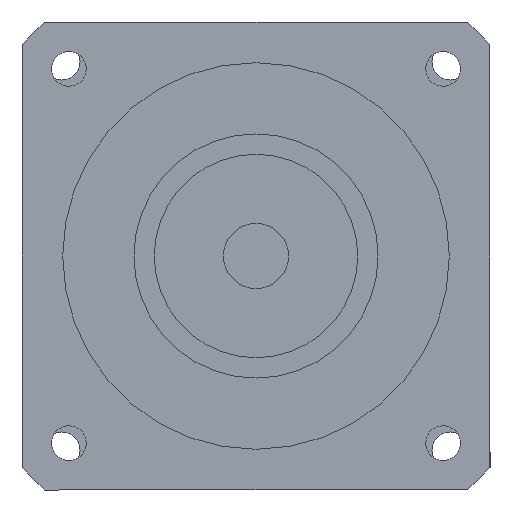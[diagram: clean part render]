
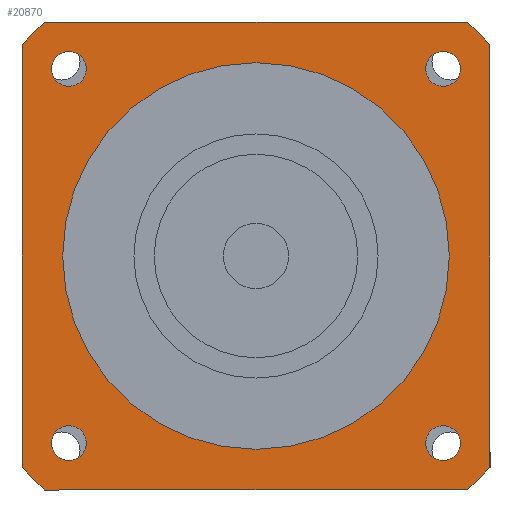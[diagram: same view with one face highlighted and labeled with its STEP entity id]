
A CAD part, left-side view. The second image highlights one B-rep face of the part: STEP entity #20870.
In plain terms, the highlighted planar face has unit normal (-1, 0, 0) as drawn and (0, 0, -1) by its records, which use the part's own axes.
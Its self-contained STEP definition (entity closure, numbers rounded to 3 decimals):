
#16070=CARTESIAN_POINT('',(-57.5,51.962,-101.));
#16080=VERTEX_POINT('',#16070);
#16230=CARTESIAN_POINT('',(-57.5,-51.962,-101.));
#16240=VERTEX_POINT('',#16230);
#16270=CARTESIAN_POINT('',(-57.5,57.5,-101.));
#16280=DIRECTION('',(0.,-1.,0.));
#16290=VECTOR('',#16280,1000.);
#16300=LINE('',#16270,#16290);
#16310=EDGE_CURVE('',#16080,#16240,#16300,.T.);
#16550=CARTESIAN_POINT('',(-51.962,-57.5,-101.));
#16560=VERTEX_POINT('',#16550);
#16590=CARTESIAN_POINT('',(0.,0.,
-101.));
#16600=DIRECTION('',(0.,0.,1.));
#16610=DIRECTION('',(0.,-1.,0.));
#16620=AXIS2_PLACEMENT_3D('',#16590,#16600,#16610);
#16630=CIRCLE('',#16620,77.5);
#16640=EDGE_CURVE('',#16240,#16560,#16630,.T.);
#18460=CARTESIAN_POINT('',(-51.962,57.5,-101.));
#18470=VERTEX_POINT('',#18460);
#18520=CARTESIAN_POINT('',(0.,0.,
-101.));
#18530=DIRECTION('',(0.,0.,1.));
#18540=DIRECTION('',(0.,-1.,0.));
#18550=AXIS2_PLACEMENT_3D('',#18520,#18530,#18540);
#18560=CIRCLE('',#18550,77.5);
#18570=EDGE_CURVE('',#18470,#16080,#18560,.T.);
#18710=CARTESIAN_POINT('',(51.962,57.5,-101.));
#18720=VERTEX_POINT('',#18710);
#18770=CARTESIAN_POINT('',(57.5,57.5,-101.));
#18780=DIRECTION('',(-1.,0.,0.));
#18790=VECTOR('',#18780,1000.);
#18800=LINE('',#18770,#18790);
#18810=EDGE_CURVE('',#18720,#18470,#18800,.T.);
#18920=CARTESIAN_POINT('',(0.,0.,
-101.));
#18930=DIRECTION('',(0.,0.,1.));
#18940=DIRECTION('',(0.,-1.,0.));
#18950=AXIS2_PLACEMENT_3D('',#18920,#18930,#18940);
#18960=CIRCLE('',#18950,77.5);
#18970=CARTESIAN_POINT('',(57.5,51.962,-101.));
#18980=VERTEX_POINT('',#18970);
#18990=EDGE_CURVE('',#18980,#18720,#18960,.T.);
#19200=CARTESIAN_POINT('',(57.5,-51.962,-101.));
#19210=VERTEX_POINT('',#19200);
#19260=CARTESIAN_POINT('',(57.5,-57.5,-101.));
#19270=DIRECTION('',(0.,1.,0.));
#19280=VECTOR('',#19270,1000.);
#19290=LINE('',#19260,#19280);
#19300=EDGE_CURVE('',#19210,#18980,#19290,.T.);
#19440=CARTESIAN_POINT('',(51.962,-57.5,-101.));
#19450=VERTEX_POINT('',#19440);
#19500=CARTESIAN_POINT('',(0.,0.,
-101.));
#19510=DIRECTION('',(0.,0.,1.));
#19520=DIRECTION('',(0.,-1.,0.));
#19530=AXIS2_PLACEMENT_3D('',#19500,#19510,#19520);
#19540=CIRCLE('',#19530,77.5);
#19550=EDGE_CURVE('',#19450,#19210,#19540,.T.);
#19680=CARTESIAN_POINT('',(-57.5,-57.5,-101.));
#19690=DIRECTION('',(1.,0.,0.));
#19700=VECTOR('',#19690,1000.);
#19710=LINE('',#19680,#19700);
#19720=EDGE_CURVE('',#16560,#19450,#19710,.T.);
#19770=CARTESIAN_POINT('',(-57.5,57.5,-101.));
#19780=DIRECTION('',(0.,0.,1.));
#19790=DIRECTION('',(-1.,0.,0.));
#19800=AXIS2_PLACEMENT_3D('',#19770,#19780,#19790);
#19810=PLANE('',#19800);
#19820=CARTESIAN_POINT('',(45.962,-45.962,-101.));
#19830=DIRECTION('',(0.,0.,-1.));
#19840=DIRECTION('',(1.,0.,0.));
#19850=AXIS2_PLACEMENT_3D('',#19820,#19830,#19840);
#19860=CIRCLE('',#19850,4.25);
#19870=CARTESIAN_POINT('',(50.212,-45.962,-101.));
#19880=VERTEX_POINT('',#19870);
#19890=CARTESIAN_POINT('',(45.962,-50.212,-101.));
#19900=VERTEX_POINT('',#19890);
#19910=EDGE_CURVE('',#19880,#19900,#19860,.T.);
#19920=ORIENTED_EDGE('',*,*,#19910,.F.);
#19930=CARTESIAN_POINT('',(45.962,-41.712,-101.));
#19940=VERTEX_POINT('',#19930);
#19950=EDGE_CURVE('',#19900,#19940,#19860,.T.);
#19960=ORIENTED_EDGE('',*,*,#19950,.F.);
#19970=EDGE_CURVE('',#19940,#19880,#19860,.T.);
#19980=ORIENTED_EDGE('',*,*,#19970,.F.);
#19990=EDGE_LOOP('',(#19980,#19960,#19920));
#20000=FACE_BOUND('',#19990,.T.);
#20010=CARTESIAN_POINT('',(45.962,45.962,-101.));
#20020=DIRECTION('',(0.,0.,-1.));
#20030=DIRECTION('',(0.,1.,0.));
#20040=AXIS2_PLACEMENT_3D('',#20010,#20020,#20030);
#20050=CIRCLE('',#20040,4.25);
#20060=CARTESIAN_POINT('',(45.962,50.212,-101.));
#20070=VERTEX_POINT('',#20060);
#20080=CARTESIAN_POINT('',(50.212,45.962,-101.));
#20090=VERTEX_POINT('',#20080);
#20100=EDGE_CURVE('',#20070,#20090,#20050,.T.);
#20110=ORIENTED_EDGE('',*,*,#20100,.F.);
#20120=CARTESIAN_POINT('',(41.712,45.962,-101.));
#20130=VERTEX_POINT('',#20120);
#20140=EDGE_CURVE('',#20090,#20130,#20050,.T.);
#20150=ORIENTED_EDGE('',*,*,#20140,.F.);
#20160=EDGE_CURVE('',#20130,#20070,#20050,.T.);
#20170=ORIENTED_EDGE('',*,*,#20160,.F.);
#20180=EDGE_LOOP('',(#20170,#20150,#20110));
#20190=FACE_BOUND('',#20180,.T.);
#20200=CARTESIAN_POINT('',(-45.962,45.962,-101.));
#20210=DIRECTION('',(0.,0.,-1.));
#20220=DIRECTION('',(-1.,0.,0.));
#20230=AXIS2_PLACEMENT_3D('',#20200,#20210,#20220);
#20240=CIRCLE('',#20230,4.25);
#20250=CARTESIAN_POINT('',(-50.212,45.962,-101.));
#20260=VERTEX_POINT('',#20250);
#20270=CARTESIAN_POINT('',(-45.962,50.212,-101.));
#20280=VERTEX_POINT('',#20270);
#20290=EDGE_CURVE('',#20260,#20280,#20240,.T.);
#20300=ORIENTED_EDGE('',*,*,#20290,.F.);
#20310=CARTESIAN_POINT('',(-45.962,41.712,-101.));
#20320=VERTEX_POINT('',#20310);
#20330=EDGE_CURVE('',#20280,#20320,#20240,.T.);
#20340=ORIENTED_EDGE('',*,*,#20330,.F.);
#20350=EDGE_CURVE('',#20320,#20260,#20240,.T.);
#20360=ORIENTED_EDGE('',*,*,#20350,.F.);
#20370=EDGE_LOOP('',(#20360,#20340,#20300));
#20380=FACE_BOUND('',#20370,.T.);
#20390=CARTESIAN_POINT('',(-45.962,-45.962,-101.));
#20400=DIRECTION('',(0.,0.,-1.));
#20410=DIRECTION('',(0.,-1.,0.));
#20420=AXIS2_PLACEMENT_3D('',#20390,#20400,#20410);
#20430=CIRCLE('',#20420,4.25);
#20440=CARTESIAN_POINT('',(-45.962,-50.212,-101.));
#20450=VERTEX_POINT('',#20440);
#20460=CARTESIAN_POINT('',(-50.212,-45.962,-101.));
#20470=VERTEX_POINT('',#20460);
#20480=EDGE_CURVE('',#20450,#20470,#20430,.T.);
#20490=ORIENTED_EDGE('',*,*,#20480,.F.);
#20500=CARTESIAN_POINT('',(-41.712,-45.962,-101.));
#20510=VERTEX_POINT('',#20500);
#20520=EDGE_CURVE('',#20470,#20510,#20430,.T.);
#20530=ORIENTED_EDGE('',*,*,#20520,.F.);
#20540=EDGE_CURVE('',#20510,#20450,#20430,.T.);
#20550=ORIENTED_EDGE('',*,*,#20540,.F.);
#20560=EDGE_LOOP('',(#20550,#20530,#20490));
#20570=FACE_BOUND('',#20560,.T.);
#20580=ORIENTED_EDGE('',*,*,#16640,.F.);
#20590=ORIENTED_EDGE('',*,*,#19720,.F.);
#20600=ORIENTED_EDGE('',*,*,#19550,.F.);
#20610=ORIENTED_EDGE('',*,*,#19300,.F.);
#20620=ORIENTED_EDGE('',*,*,#18990,.F.);
#20630=ORIENTED_EDGE('',*,*,#18810,.F.);
#20640=ORIENTED_EDGE('',*,*,#18570,.F.);
#20650=ORIENTED_EDGE('',*,*,#16310,.F.);
#20660=EDGE_LOOP('',(#20650,#20640,#20630,#20620,#20610,#20600,#20590,
#20580));
#20670=FACE_OUTER_BOUND('',#20660,.T.);
#20680=CARTESIAN_POINT('',(0.,0.,
-101.));
#20690=DIRECTION('',(0.,0.,1.));
#20700=DIRECTION('',(0.,-1.,0.));
#20710=AXIS2_PLACEMENT_3D('',#20680,#20690,#20700);
#20720=CIRCLE('',#20710,47.5);
#20730=CARTESIAN_POINT('',(47.5,0.,-101.));
#20740=VERTEX_POINT('',#20730);
#20750=CARTESIAN_POINT('',(-47.5,0.,-101.));
#20760=VERTEX_POINT('',#20750);
#20770=EDGE_CURVE('',#20740,#20760,#20720,.T.);
#20780=ORIENTED_EDGE('',*,*,#20770,.T.);
#20790=CARTESIAN_POINT('',(0.,-47.5,-101.));
#20800=VERTEX_POINT('',#20790);
#20810=EDGE_CURVE('',#20800,#20740,#20720,.T.);
#20820=ORIENTED_EDGE('',*,*,#20810,.T.);
#20830=EDGE_CURVE('',#20760,#20800,#20720,.T.);
#20840=ORIENTED_EDGE('',*,*,#20830,.T.);
#20850=EDGE_LOOP('',(#20840,#20820,#20780));
#20860=FACE_BOUND('',#20850,.T.);
#20870=ADVANCED_FACE('',(#20000,#20190,#20380,#20570,#20670,#20860),
#19810,.F.);
